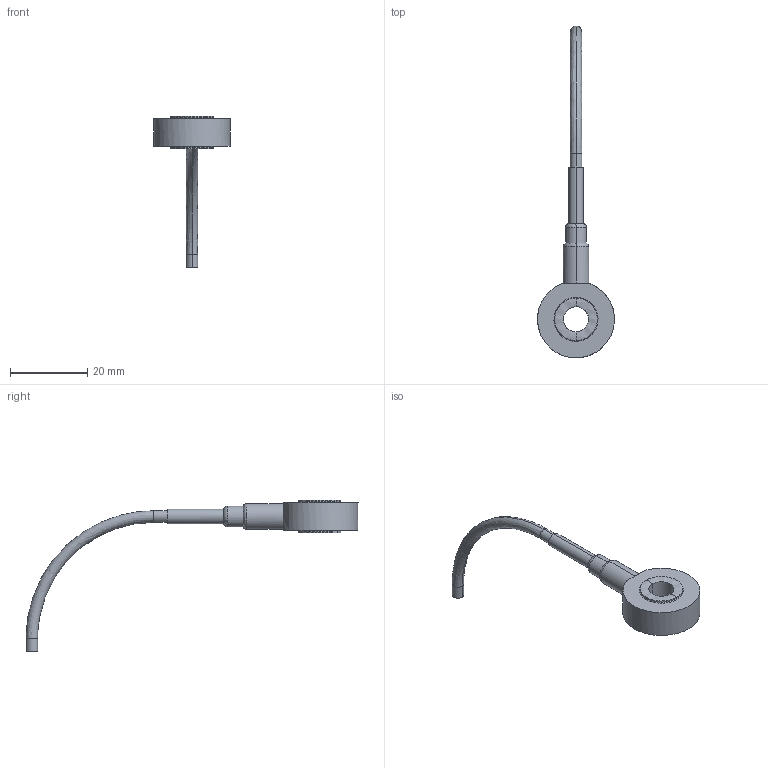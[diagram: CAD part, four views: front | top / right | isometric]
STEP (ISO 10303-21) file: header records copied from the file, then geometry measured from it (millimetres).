
FILE_DESCRIPTION (( 'STEP AP214' ), '1' );
FILE_NAME ('SM71-M6-20kN.STEP', '2022-09-19T10:49:20', ( '' ), ( '' ), 'SwSTEP 2.0', 'SolidWorks 2019', '' );
FILE_SCHEMA (( 'AUTOMOTIVE_DESIGN' ));
Length unit declared in the file: millimetre
Products named in the file (2): SM71-M6-20kN
Bounding box: 19.87 x 85.85 x 39.25 mm (x, y, z)
Volume: 3088.6 mm3; surface area: 2190.2 mm2
Topology: 1 solids, 1 shells, 39 faces, 80 edges, 44 vertices
Faces by surface type: bspline 31, plane 8
Entity records: 2765 total; most frequent: CARTESIAN_POINT 2112, ORIENTED_EDGE 160, EDGE_CURVE 80, B_SPLINE_CURVE_WITH_KNOTS 56, VERTEX_POINT 44, DIRECTION 44, EDGE_LOOP 42, FACE_OUTER_BOUND 39
